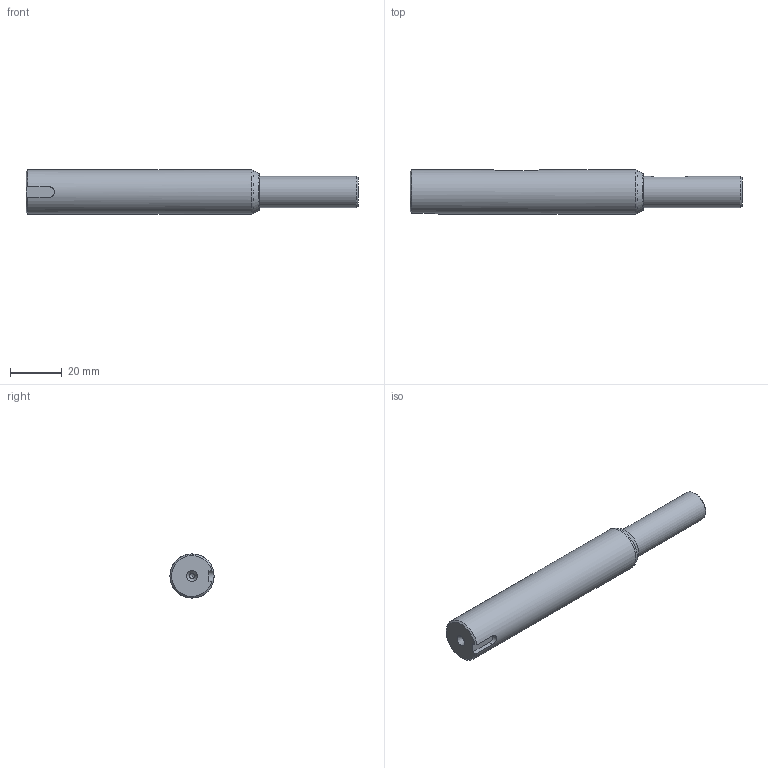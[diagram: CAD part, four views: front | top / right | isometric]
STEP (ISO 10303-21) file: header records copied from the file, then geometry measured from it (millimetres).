
FILE_DESCRIPTION(/* description */ (''),/* implementation_level */ '2;1');
FILE_NAME(/* name */ '',/* time_stamp */ '2025-03-10T16:24:39+09:00',/* author */ ('jhkim'),/* organization */ (''),/* preprocessor_version */ 'ST-DEVELOPER v20',/* originating_system */ 'Autodesk Inventor 2025',/* authorisation */ '');
FILE_SCHEMA (('AUTOMOTIVE_DESIGN { 1 0 10303 214 3 1 1 }'));
Length unit declared in the file: millimetre
Products named in the file (1): 축
Bounding box: 128 x 17 x 17 mm (x, y, z)
Volume: 24110 mm3; surface area: 6867 mm2
Topology: 1 solids, 1 shells, 30 faces, 75 edges, 50 vertices
Faces by surface type: plane 12, cylinder 9, cone 7, torus 2
Full cylindrical faces by diameter (mm): 2 x2, 12 x1, 17 x1
Entity records: 1006 total; most frequent: CARTESIAN_POINT 248, DIRECTION 149, ORIENTED_EDGE 146, EDGE_CURVE 73, AXIS2_PLACEMENT_3D 57, VERTEX_POINT 50, LINE 35, VECTOR 35
